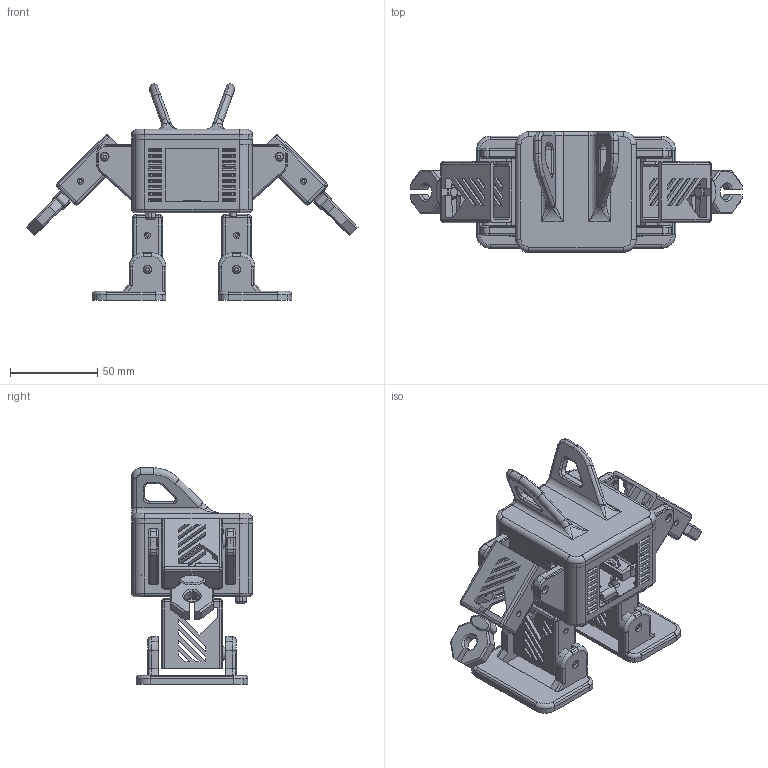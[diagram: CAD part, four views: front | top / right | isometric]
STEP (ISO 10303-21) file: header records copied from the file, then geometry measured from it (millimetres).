
FILE_DESCRIPTION(('HOOPS Exchange Step'),'2;1');
FILE_NAME('C:\Users\Kim\AppData\Local\Packages\Shapr3D.Shapr3D_j403pzjkqtqbj\TempState\export\temp_export','2025-06-26T23:41:26+08:00',('Kim'),('Shapr3D Limited'),'HOOPS Exchange 2024.8','Shapr3D','Authorized');
FILE_SCHEMA( ('AP242_MANAGED_MODEL_BASED_3D_ENGINEERING_MIM_LF {1 0 10303 442 1 1 4}') );
Length unit declared in the file: millimetre
Products named in the file (5): grip.step; foot.step; head.step; body有手.step; root
Assembly tree (4 placements, depth 2):
  root
    grip.step
    foot.step
    head.step
    body有手.step
Bounding box: 189.85 x 69 x 123.68 mm (x, y, z)
Volume: 124381.5 mm3; surface area: 103679.7 mm2
Topology: 12 solids, 12 shells, 1572 faces, 4274 edges, 2753 vertices
Faces by surface type: plane 844, cylinder 536, torus 80, bspline 64, sphere 32, cone 16
Full cylindrical faces by diameter (mm): 1.2 x1, 1.8 x12, 2 x17, 2.5 x2, 2.8 x1, 3.5 x4, 3.6 x1, 4 x4, 4.5 x4, 5 x1, 5.02 x4, 5.1 x4, 7.25 x2, 7.28 x2, 7.3 x4, 7.75 x4, 8 x2, 18.4 x1
Entity records: 59041 total; most frequent: CARTESIAN_POINT 18357, ORIENTED_EDGE 8540, DIRECTION 8422, EDGE_CURVE 4270, AXIS2_PLACEMENT_3D 2814, VECTOR 2794, LINE 2794, VERTEX_POINT 2753
